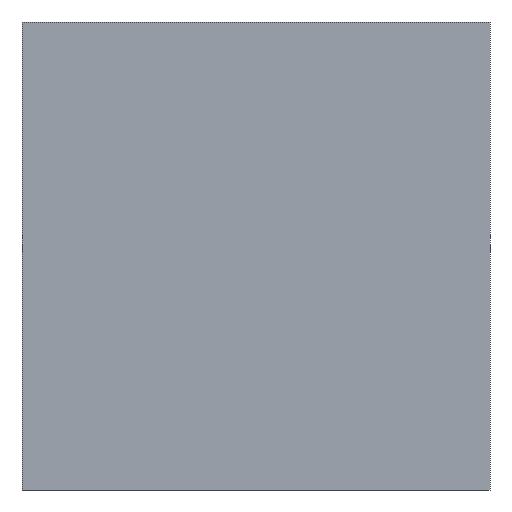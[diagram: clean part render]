
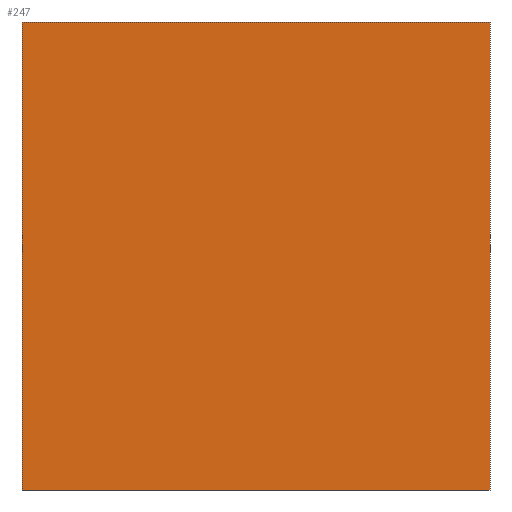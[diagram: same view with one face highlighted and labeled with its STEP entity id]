
A CAD part, front view. The second image highlights one B-rep face of the part: STEP entity #247.
In plain terms, the highlighted planar face has unit normal (0, -1, 0).
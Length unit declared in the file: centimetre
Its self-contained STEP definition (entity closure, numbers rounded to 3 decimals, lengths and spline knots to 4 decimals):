
#3 = CARTESIAN_POINT ( 'NONE',  ( 0., 0., 1000. ) ) ;
#37 = DIRECTION ( 'NONE',  ( 0., 1., 0. ) ) ;
#48 = VERTEX_POINT ( 'NONE', #291 ) ;
#51 = ORIENTED_EDGE ( 'NONE', *, *, #104, .T. ) ;
#62 = CARTESIAN_POINT ( 'NONE',  ( 0., 0., 0. ) ) ;
#81 = VECTOR ( 'NONE', #407, 100. ) ;
#89 = EDGE_LOOP ( 'NONE', ( #51, #219, #154, #342 ) ) ;
#104 = EDGE_CURVE ( 'NONE', #48, #163, #200, .T. ) ;
#126 = VECTOR ( 'NONE', #393, 100. ) ;
#141 = FACE_OUTER_BOUND ( 'NONE', #89, .T. ) ;
#142 = VECTOR ( 'NONE', #262, 100. ) ;
#147 = LINE ( 'NONE', #3, #280 ) ;
#154 = ORIENTED_EDGE ( 'NONE', *, *, #238, .F. ) ;
#160 = EDGE_CURVE ( 'NONE', #314, #48, #147, .T. ) ;
#163 = VERTEX_POINT ( 'NONE', #409 ) ;
#171 = CARTESIAN_POINT ( 'NONE',  ( 0., 0., 1000. ) ) ;
#177 = VERTEX_POINT ( 'NONE', #367 ) ;
#178 = PLANE ( 'NONE',  #435 ) ;
#200 = LINE ( 'NONE', #62, #126 ) ;
#219 = ORIENTED_EDGE ( 'NONE', *, *, #309, .F. ) ;
#238 = EDGE_CURVE ( 'NONE', #314, #177, #343, .T. ) ;
#247 = ADVANCED_FACE ( 'NONE', ( #141 ), #178, .F. ) ;
#262 = DIRECTION ( 'NONE',  ( 0., 0., -1. ) ) ;
#275 = DIRECTION ( 'NONE',  ( 0., 0., -1. ) ) ;
#277 = DIRECTION ( 'NONE',  ( 0., 0., 1. ) ) ;
#280 = VECTOR ( 'NONE', #275, 100. ) ;
#291 = CARTESIAN_POINT ( 'NONE',  ( 0., 0., 0. ) ) ;
#309 = EDGE_CURVE ( 'NONE', #177, #163, #434, .T. ) ;
#314 = VERTEX_POINT ( 'NONE', #171 ) ;
#339 = CARTESIAN_POINT ( 'NONE',  ( 0., 0., 1000. ) ) ;
#342 = ORIENTED_EDGE ( 'NONE', *, *, #160, .T. ) ;
#343 = LINE ( 'NONE', #368, #81 ) ;
#367 = CARTESIAN_POINT ( 'NONE',  ( 1000., 0., 1000. ) ) ;
#368 = CARTESIAN_POINT ( 'NONE',  ( 0., 0., 1000. ) ) ;
#393 = DIRECTION ( 'NONE',  ( 1., 0., 0. ) ) ;
#407 = DIRECTION ( 'NONE',  ( 1., 0., 0. ) ) ;
#409 = CARTESIAN_POINT ( 'NONE',  ( 1000., 0., 0. ) ) ;
#432 = CARTESIAN_POINT ( 'NONE',  ( 1000., 0., 1000. ) ) ;
#434 = LINE ( 'NONE', #432, #142 ) ;
#435 = AXIS2_PLACEMENT_3D ( 'NONE', #339, #37, #277 ) ;
